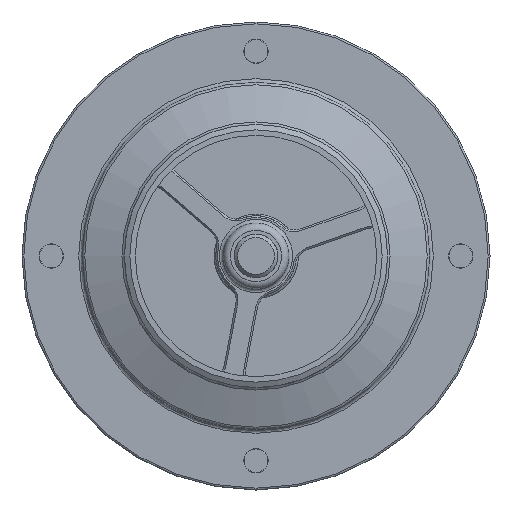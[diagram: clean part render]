
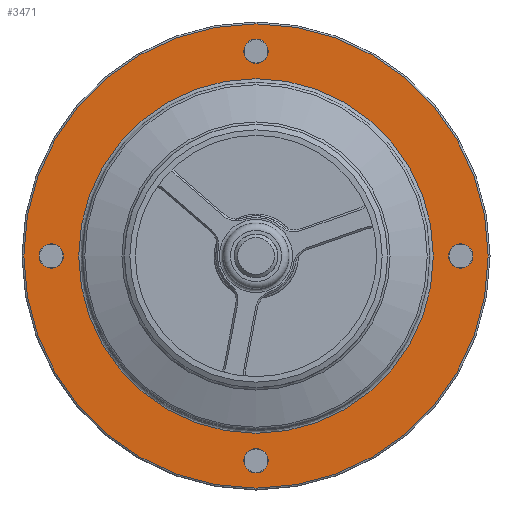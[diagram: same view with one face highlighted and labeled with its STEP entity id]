
A CAD part, left-side view. The second image highlights one B-rep face of the part: STEP entity #3471.
In plain terms, the highlighted planar face has unit normal (-1, 0, 0).
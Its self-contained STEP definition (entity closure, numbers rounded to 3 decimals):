
#3396=CARTESIAN_POINT('',(-21.474,63.5,0.));
#3397=VERTEX_POINT('',#3396);
#3398=CARTESIAN_POINT('',(-21.474,0.,0.));
#3399=DIRECTION('',(1.0,0.0,0.0));
#3400=DIRECTION('',(0.0,-1.0,0.0));
#3401=AXIS2_PLACEMENT_3D('',#3398,#3399,#3400);
#3402=CIRCLE('',#3401,63.5);
#3403=EDGE_CURVE('',#3397,#3397,#3402,.T.);
#3408=CARTESIAN_POINT('',(-21.474,56.25,0.));
#3409=DIRECTION('',(-1.0,0.0,0.0));
#3410=DIRECTION('',(0.0,0.0,1.0));
#3411=AXIS2_PLACEMENT_3D('',#3408,#3409,#3410);
#3412=PLANE('',#3411);
#3413=ORIENTED_EDGE('',*,*,#3403,.F.);
#3414=EDGE_LOOP('',(#3413));
#3415=FACE_OUTER_BOUND('',#3414,.T.);
#3416=CARTESIAN_POINT('',(-21.474,48.5,0.));
#3417=VERTEX_POINT('',#3416);
#3418=CARTESIAN_POINT('',(-21.474,0.,0.));
#3419=DIRECTION('',(-1.0,0.0,0.0));
#3420=DIRECTION('',(0.0,1.0,0.0));
#3421=AXIS2_PLACEMENT_3D('',#3418,#3419,#3420);
#3422=CIRCLE('',#3421,48.5);
#3423=EDGE_CURVE('',#3417,#3417,#3422,.T.);
#3424=ORIENTED_EDGE('',*,*,#3423,.F.);
#3425=EDGE_LOOP('',(#3424));
#3426=FACE_BOUND('',#3425,.T.);
#3427=CARTESIAN_POINT('',(-21.474,56.,3.323));
#3428=VERTEX_POINT('',#3427);
#3429=CARTESIAN_POINT('',(-21.474,56.,0.));
#3430=DIRECTION('',(1.0,0.0,0.0));
#3431=DIRECTION('',(0.0,0.0,-1.0));
#3432=AXIS2_PLACEMENT_3D('',#3429,#3430,#3431);
#3433=CIRCLE('',#3432,3.324);
#3434=EDGE_CURVE('',#3428,#3428,#3433,.T.);
#3435=ORIENTED_EDGE('',*,*,#3434,.T.);
#3436=EDGE_LOOP('',(#3435));
#3437=FACE_BOUND('',#3436,.T.);
#3438=CARTESIAN_POINT('',(-21.474,3.323,-56.));
#3439=VERTEX_POINT('',#3438);
#3440=CARTESIAN_POINT('',(-21.474,0.,-56.));
#3441=DIRECTION('',(1.0,0.0,0.0));
#3442=DIRECTION('',(0.0,-1.0,0.0));
#3443=AXIS2_PLACEMENT_3D('',#3440,#3441,#3442);
#3444=CIRCLE('',#3443,3.324);
#3445=EDGE_CURVE('',#3439,#3439,#3444,.T.);
#3446=ORIENTED_EDGE('',*,*,#3445,.T.);
#3447=EDGE_LOOP('',(#3446));
#3448=FACE_BOUND('',#3447,.T.);
#3449=CARTESIAN_POINT('',(-21.474,-56.,-3.323));
#3450=VERTEX_POINT('',#3449);
#3451=CARTESIAN_POINT('',(-21.474,-56.,0.));
#3452=DIRECTION('',(1.0,0.0,0.0));
#3453=DIRECTION('',(0.0,0.0,1.0));
#3454=AXIS2_PLACEMENT_3D('',#3451,#3452,#3453);
#3455=CIRCLE('',#3454,3.324);
#3456=EDGE_CURVE('',#3450,#3450,#3455,.T.);
#3457=ORIENTED_EDGE('',*,*,#3456,.T.);
#3458=EDGE_LOOP('',(#3457));
#3459=FACE_BOUND('',#3458,.T.);
#3460=CARTESIAN_POINT('',(-21.474,-3.323,56.));
#3461=VERTEX_POINT('',#3460);
#3462=CARTESIAN_POINT('',(-21.474,0.,56.));
#3463=DIRECTION('',(1.0,0.0,0.0));
#3464=DIRECTION('',(0.0,1.0,0.0));
#3465=AXIS2_PLACEMENT_3D('',#3462,#3463,#3464);
#3466=CIRCLE('',#3465,3.324);
#3467=EDGE_CURVE('',#3461,#3461,#3466,.T.);
#3468=ORIENTED_EDGE('',*,*,#3467,.T.);
#3469=EDGE_LOOP('',(#3468));
#3470=FACE_BOUND('',#3469,.T.);
#3471=ADVANCED_FACE('',(#3415,#3426,#3437,#3448,#3459,#3470),#3412,.T.);
